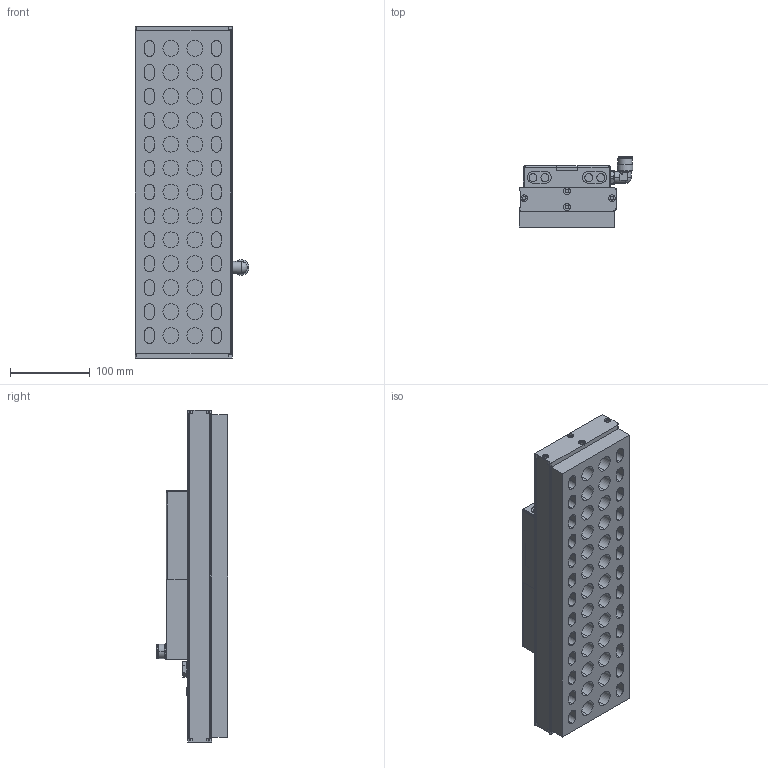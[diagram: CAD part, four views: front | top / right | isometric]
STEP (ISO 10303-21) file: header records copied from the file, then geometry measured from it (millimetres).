
FILE_DESCRIPTION (( 'STEP AP214' ), '1' );
FILE_NAME ('310 400 012.STEP', '2018-01-10T08:03:52', ( '' ), ( '' ), 'SwSTEP 2.0', 'SolidWorks 2017', '' );
FILE_SCHEMA (( 'AUTOMOTIVE_DESIGN' ));
Length unit declared in the file: millimetre
Products named in the file (1): 310 400 012
Bounding box: 142.75 x 89 x 416 mm (x, y, z)
Volume: 2805999.9 mm3; surface area: 242670 mm2
Topology: 1 solids, 2 shells, 678 faces, 1597 edges, 1016 vertices
Faces by surface type: cylinder 304, plane 290, torus 39, cone 36, bspline 6, sphere 3
Entity records: 27426 total; most frequent: CARTESIAN_POINT 3906, DIRECTION 3603, ORIENTED_EDGE 3184, EDGE_CURVE 1592, AXIS2_PLACEMENT_3D 1406, VERTEX_POINT 1013, VECTOR 791, LINE 791
